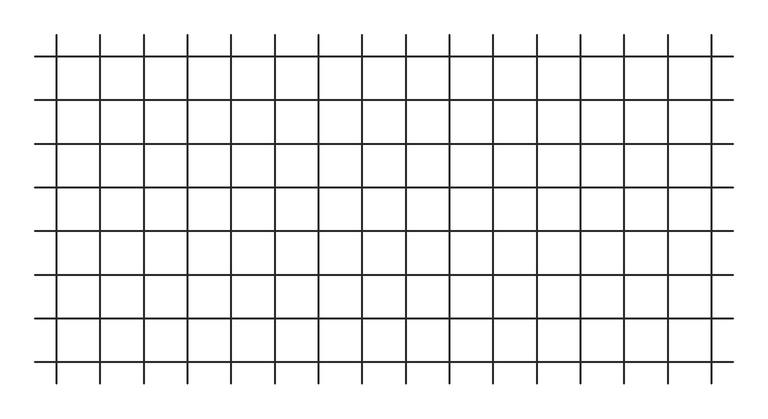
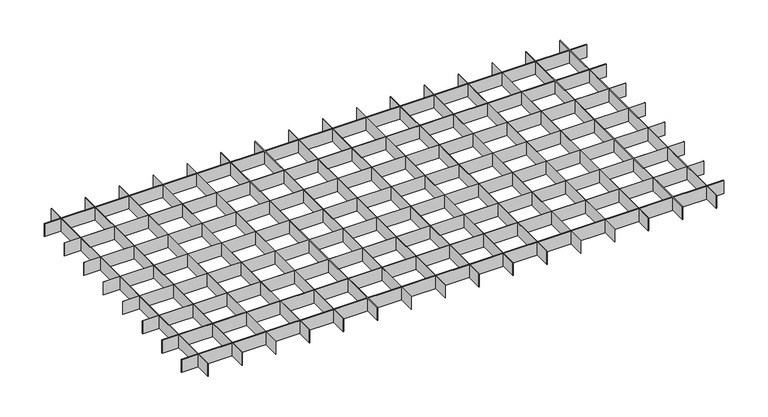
"""IFC4 building model written with IfcOpenShell, lengths in millimetres: proxy geometry, durlum_QUADRA_panel : durlum_QUADRA."""

import ifcopenshell
import ifcopenshell.guid

model = None  # the IFC model being written
_history = None  # IfcOwnerHistory: only IFC2X3 demands one
_inside = {}  # id of a spatial element -> (the spatial element, [elements in it])
_under = {}  # id of a project, library or spatial element -> (it, [spatial elements below it])
_declared = {}  # id of a project -> (the project, [libraries it declares])
_typed = {}  # id of a type object -> (the type object, [elements of that type])
_made_of = {}  # id of a material, layer set ... -> (it, [elements and type objects made of it])


def new_model(schema):
    """Start an empty IFC model of exactly this schema.

    Asked for "IFC4X3", IfcOpenShell would pick the latest addendum, in which some entities
    have other attributes; the version numbers below select the first issue.
    IFC2X3 requires an IfcOwnerHistory on every rooted entity: one is made here for all.
    """
    global model, _history
    if schema == "IFC4X3":
        model = ifcopenshell.file(schema_version=(4, 3, 0, 0))
    else:
        model = ifcopenshell.file(schema=schema)
    _inside.clear()
    _under.clear()
    _declared.clear()
    _typed.clear()
    _made_of.clear()
    _history = None
    if model.schema == "IFC2X3":
        org = make("IfcOrganization", Name="unknown")
        user = make(
            "IfcPersonAndOrganization",
            ThePerson=make("IfcPerson", FamilyName="unknown"),
            TheOrganization=org,
        )
        app = make(
            "IfcApplication",
            ApplicationDeveloper=org,
            Version="unknown",
            ApplicationFullName="unknown",
            ApplicationIdentifier="unknown",
        )
        _history = make(
            "IfcOwnerHistory",
            OwningUser=user,
            OwningApplication=app,
            ChangeAction="ADDED",
            CreationDate=0,
        )
    return model


def make(cls, **values):
    """One entity of the class cls with the attributes given. An attribute that is None is left unset."""
    return model.create_entity(
        cls, **{name: value for name, value in values.items() if value is not None}
    )


def rooted(cls, **values):
    """An entity with a GlobalId (a new one), such as an element, a storey or a relation."""
    return make(cls, GlobalId=ifcopenshell.guid.new(), OwnerHistory=_history, **values)


def si_unit(unit_type, name, prefix=None):
    """IfcSIUnit, for example si_unit("LENGTHUNIT", "METRE", prefix="MILLI")."""
    return make("IfcSIUnit", UnitType=unit_type, Prefix=prefix, Name=name)


def assignment(units):
    """IfcUnitAssignment: the units of a project."""
    return None if units is None else make("IfcUnitAssignment", Units=units)


def point(xyz):
    """IfcCartesianPoint."""
    return None if xyz is None else make("IfcCartesianPoint", Coordinates=xyz)


def direction(xyz):
    """IfcDirection."""
    return None if xyz is None else make("IfcDirection", DirectionRatios=xyz)


def frame(location, z_axis=None, x_axis=None):
    """IfcAxis2Placement3D, a coordinate frame: its origin and axes. An axis left out is left unset."""
    return make(
        "IfcAxis2Placement3D",
        Location=point(location),
        Axis=direction(z_axis),
        RefDirection=direction(x_axis),
    )


def origin():
    """The frame at (0, 0, 0) with its axes left unset."""
    return frame((0.0, 0.0, 0.0))


def origin_with_axes():
    """The frame at (0, 0, 0) with the z axis (0, 0, 1) and the x axis (1, 0, 0) written out."""
    return frame((0.0, 0.0, 0.0), z_axis=(0.0, 0.0, 1.0), x_axis=(1.0, 0.0, 0.0))


def place(relative_to, where):
    """IfcLocalPlacement: puts the frame where relative to a parent placement (None: the world)."""
    return make(
        "IfcLocalPlacement", PlacementRelTo=relative_to, RelativePlacement=where
    )


def context(
    kind, dimensions, precision=None, world=None, true_north=None, identifier=None
):
    """IfcGeometricRepresentationContext, for example the 3D "Model" context."""
    return make(
        "IfcGeometricRepresentationContext",
        ContextIdentifier=identifier,
        ContextType=kind,
        CoordinateSpaceDimension=dimensions,
        Precision=precision,
        WorldCoordinateSystem=world,
        TrueNorth=true_north,
    )


def project(units=None, contexts=None):
    """IfcProject with its units and contexts."""
    return rooted(
        "IfcProject",
        Name="project",
        RepresentationContexts=contexts,
        UnitsInContext=assignment(units),
    )


def spatial(cls, under=None, at=None, **own):
    """A site, building, storey or space (cls), placed at a placement, below another one or the project."""
    s = rooted(cls, ObjectPlacement=at, **own)
    if under is not None:
        _under.setdefault(under.id(), (under, []))[1].append(s)
    return s


def polyline(points):
    """IfcPolyline through the points."""
    return make("IfcPolyline", Points=[point(p) for p in points])


def outline(outer, holes=None, kind="AREA"):
    """IfcArbitraryClosedProfileDef: a profile drawn as a closed curve; with holes, ...WithVoids."""
    if holes is None:
        return make("IfcArbitraryClosedProfileDef", ProfileType=kind, OuterCurve=outer)
    return make(
        "IfcArbitraryProfileDefWithVoids",
        ProfileType=kind,
        OuterCurve=outer,
        InnerCurves=holes,
    )


def extrude(swept, where, along, depth):
    """IfcExtrudedAreaSolid: the profile swept, set in the frame where, extruded along a direction by depth."""
    return make(
        "IfcExtrudedAreaSolid",
        SweptArea=swept,
        Position=where,
        ExtrudedDirection=direction(along),
        Depth=depth,
    )


def shape(context_of_items, identifier, shape_type, items):
    """IfcShapeRepresentation: the items that make up one representation, for example the "Body"."""
    return make(
        "IfcShapeRepresentation",
        ContextOfItems=context_of_items,
        RepresentationIdentifier=identifier,
        RepresentationType=shape_type,
        Items=items,
    )


def source(mapping_origin, context_of_items, identifier, shape_type, items):
    """IfcRepresentationMap: a shape defined once, which mapped items show again and again."""
    return make(
        "IfcRepresentationMap",
        MappingOrigin=mapping_origin,
        MappedRepresentation=shape(context_of_items, identifier, shape_type, items),
    )


def transform(
    local_origin,
    x_axis=None,
    y_axis=None,
    z_axis=None,
    scale=None,
    scale2=None,
    scale3=None,
    uniform=True,
):
    """IfcCartesianTransformationOperator3D, or its non-uniform kind. x_axis, y_axis, z_axis: its Axis1, 2, 3."""
    if uniform:
        return make(
            "IfcCartesianTransformationOperator3D",
            Axis1=direction(x_axis),
            Axis2=direction(y_axis),
            LocalOrigin=point(local_origin),
            Scale=scale,
            Axis3=direction(z_axis),
        )
    return make(
        "IfcCartesianTransformationOperator3DnonUniform",
        Axis1=direction(x_axis),
        Axis2=direction(y_axis),
        LocalOrigin=point(local_origin),
        Scale=scale,
        Axis3=direction(z_axis),
        Scale2=scale2,
        Scale3=scale3,
    )


def mapped(mapping_source, mapping_target):
    """IfcMappedItem: shows the shape of a source again, moved by a transform."""
    return make(
        "IfcMappedItem", MappingSource=mapping_source, MappingTarget=mapping_target
    )


def made_of(thing, what):
    """Note that an element or type object is made of a material, layer set ...; save() writes the relation."""
    if what is not None:
        _made_of.setdefault(what.id(), (what, []))[1].append(thing)
    return thing


def element(
    cls,
    number,
    at=None,
    inside=None,
    cuts=None,
    type_object=None,
    material=None,
    context=None,
    identifier="Body",
    shape_type=None,
    held_by="IfcProductDefinitionShape",
    body=None,
    shapes=None,
    **own,
):
    """One element of the class cls, such as IfcWall. Its Tag is "e" and its number.

    at: its placement. inside: the storey or other place that contains it. cuts: it is an
    opening in that element (IfcRelVoidsElement). A single representation is given by context,
    identifier, shape_type and body (its items); several are given by shapes. held_by: the class
    of the entity that holds the representations. save() writes the other relations.
    """
    e = rooted(cls, Tag="e%d" % number, ObjectPlacement=at, **own)
    if body is not None:
        shapes = [shape(context, identifier, shape_type, body)]
    if shapes is not None:
        e.Representation = make(held_by, Representations=shapes)
    if inside is not None:
        _inside.setdefault(inside.id(), (inside, []))[1].append(e)
    if cuts is not None:
        rooted(
            "IfcRelVoidsElement", RelatingBuildingElement=cuts, RelatedOpeningElement=e
        )
    if type_object is not None:
        _typed.setdefault(type_object.id(), (type_object, []))[1].append(e)
    return made_of(e, material)


def aggregate(whole, parts):
    """IfcRelAggregates: a whole, such as a stair, and the parts it consists of."""
    return rooted("IfcRelAggregates", RelatingObject=whole, RelatedObjects=parts)


def save(model, path):
    """Write the relations noted so far, then the file.

    IfcRelAggregates (storeys below a building ...), IfcRelContainedInSpatialStructure (elements
    in a storey), IfcRelDefinesByType, IfcRelAssociatesMaterial and IfcRelDeclares: one each for
    every whole, place, type object, material and project.
    """
    for whole, parts in _under.values():
        aggregate(whole, parts)
    for where, things in _inside.values():
        rooted(
            "IfcRelContainedInSpatialStructure",
            RelatedElements=things,
            RelatingStructure=where,
        )
    for kind, things in _typed.values():
        rooted("IfcRelDefinesByType", RelatedObjects=things, RelatingType=kind)
    for what, things in _made_of.values():
        rooted("IfcRelAssociatesMaterial", RelatedObjects=things, RelatingMaterial=what)
    for by, libraries in _declared.values():
        rooted("IfcRelDeclares", RelatingContext=by, RelatedDefinitions=libraries)
    model.write(path)


def generic_models_450fa989(model_context):
    return source(origin(), model_context, "Body", "SweptSolid", [
        extrude(outline(polyline([(487.1, 299.5), (487.9, 299.5), (487.9, -299.5), (487.1, -299.5), (487.1, 299.5)])), origin_with_axes(), (0.0, 0.0, 1.0), 30.0),
        extrude(outline(polyline([(412.1, 299.5), (412.9, 299.5), (412.9, -299.5), (412.1, -299.5), (412.1, 299.5)])), origin_with_axes(), (0.0, 0.0, 1.0), 30.0),
        extrude(outline(polyline([(337.1, 299.5), (337.9, 299.5), (337.9, -299.5), (337.1, -299.5), (337.1, 299.5)])), origin_with_axes(), (0.0, 0.0, 1.0), 30.0),
        extrude(outline(polyline([(262.1, 299.5), (262.9, 299.5), (262.9, -299.5), (262.1, -299.5), (262.1, 299.5)])), origin_with_axes(), (0.0, 0.0, 1.0), 30.0),
        extrude(outline(polyline([(187.1, 299.5), (187.9, 299.5), (187.9, -299.5), (187.1, -299.5), (187.1, 299.5)])), origin_with_axes(), (0.0, 0.0, 1.0), 30.0),
        extrude(outline(polyline([(112.1, 299.5), (112.9, 299.5), (112.9, -299.5), (112.1, -299.5), (112.1, 299.5)])), origin_with_axes(), (0.0, 0.0, 1.0), 30.0),
        extrude(outline(polyline([(37.1, 299.5), (37.9, 299.5), (37.9, -299.5), (37.1, -299.5), (37.1, 299.5)])), origin_with_axes(), (0.0, 0.0, 1.0), 30.0),
        extrude(outline(polyline([(-37.9, 299.5), (-37.1, 299.5), (-37.1, -299.5), (-37.9, -299.5), (-37.9, 299.5)])), origin_with_axes(), (0.0, 0.0, 1.0), 30.0),
        extrude(outline(polyline([(-112.9, 299.5), (-112.1, 299.5), (-112.1, -299.5), (-112.9, -299.5), (-112.9, 299.5)])), origin_with_axes(), (0.0, 0.0, 1.0), 30.0),
        extrude(outline(polyline([(-187.9, 299.5), (-187.1, 299.5), (-187.1, -299.5), (-187.9, -299.5), (-187.9, 299.5)])), origin_with_axes(), (0.0, 0.0, 1.0), 30.0),
        extrude(outline(polyline([(-262.9, 299.5), (-262.1, 299.5), (-262.1, -299.5), (-262.9, -299.5), (-262.9, 299.5)])), origin_with_axes(), (0.0, 0.0, 1.0), 30.0),
        extrude(outline(polyline([(-337.9, 299.5), (-337.1, 299.5), (-337.1, -299.5), (-337.9, -299.5), (-337.9, 299.5)])), origin_with_axes(), (0.0, 0.0, 1.0), 30.0),
        extrude(outline(polyline([(-412.9, 299.5), (-412.1, 299.5), (-412.1, -299.5), (-412.9, -299.5), (-412.9, 299.5)])), origin_with_axes(), (0.0, 0.0, 1.0), 30.0),
        extrude(outline(polyline([(-487.9, 299.5), (-487.1, 299.5), (-487.1, -299.5), (-487.9, -299.5), (-487.9, 299.5)])), origin_with_axes(), (0.0, 0.0, 1.0), 30.0),
        extrude(outline(polyline([(599.5, -187.1), (599.5, -187.9), (-599.5, -187.9), (-599.5, -187.1), (599.5, -187.1)])), origin_with_axes(), (0.0, 0.0, 1.0), 30.0),
        extrude(outline(polyline([(599.5, -112.1), (599.5, -112.9), (-599.5, -112.9), (-599.5, -112.1), (599.5, -112.1)])), origin_with_axes(), (0.0, 0.0, 1.0), 30.0),
        extrude(outline(polyline([(599.5, -37.1), (599.5, -37.9), (-599.5, -37.9), (-599.5, -37.1), (599.5, -37.1)])), origin_with_axes(), (0.0, 0.0, 1.0), 30.0),
        extrude(outline(polyline([(599.5, 37.9), (599.5, 37.1), (-599.5, 37.1), (-599.5, 37.9), (599.5, 37.9)])), origin_with_axes(), (0.0, 0.0, 1.0), 30.0),
        extrude(outline(polyline([(599.5, 112.9), (599.5, 112.1), (-599.5, 112.1), (-599.5, 112.9), (599.5, 112.9)])), origin_with_axes(), (0.0, 0.0, 1.0), 30.0),
        extrude(outline(polyline([(599.5, 187.9), (599.5, 187.1), (-599.5, 187.1), (-599.5, 187.9), (599.5, 187.9)])), origin_with_axes(), (0.0, 0.0, 1.0), 30.0),
        extrude(outline(polyline([(562.1, 299.5), (562.9, 299.5), (562.9, -299.5), (562.1, -299.5), (562.1, 299.5)])), origin_with_axes(), (0.0, 0.0, 1.0), 30.0),
        extrude(outline(polyline([(-562.9, 299.5), (-562.1, 299.5), (-562.1, -299.5), (-562.9, -299.5), (-562.9, 299.5)])), origin_with_axes(), (0.0, 0.0, 1.0), 30.0),
        extrude(outline(polyline([(599.5, -262.1), (599.5, -262.9), (-599.5, -262.9), (-599.5, -262.1), (599.5, -262.1)])), origin_with_axes(), (0.0, 0.0, 1.0), 30.0),
        extrude(outline(polyline([(599.5, 262.9), (599.5, 262.1), (-599.5, 262.1), (-599.5, 262.9), (599.5, 262.9)])), origin_with_axes(), (0.0, 0.0, 1.0), 30.0),
    ])


if __name__ == "__main__":
    model = new_model("IFC4")
    model_context = context("Model", 3, world=origin())
    ifc_project = project(units=[si_unit("LENGTHUNIT", "METRE", prefix="MILLI")], contexts=[model_context])
    site = spatial("IfcSite", under=ifc_project)
    building = spatial("IfcBuilding", under=site)
    placement = place(None, origin())
    generic_models_shape = generic_models_450fa989(model_context)
    element("IfcBuildingElementProxy", 1, Name="durlum_QUADRA_panel : durlum_QUADRA", ObjectType="durlum_QUADRA_panel : durlum_QUADRA", at=placement, inside=building, context=model_context, shape_type="MappedRepresentation", body=[
        mapped(generic_models_shape, transform((0.0, 0.0, 0.0), x_axis=(1.0, 0.0, 0.0), y_axis=(0.0, 1.0, 0.0), z_axis=(0.0, 0.0, 1.0))),
    ])
    save(model, "model.ifc")
